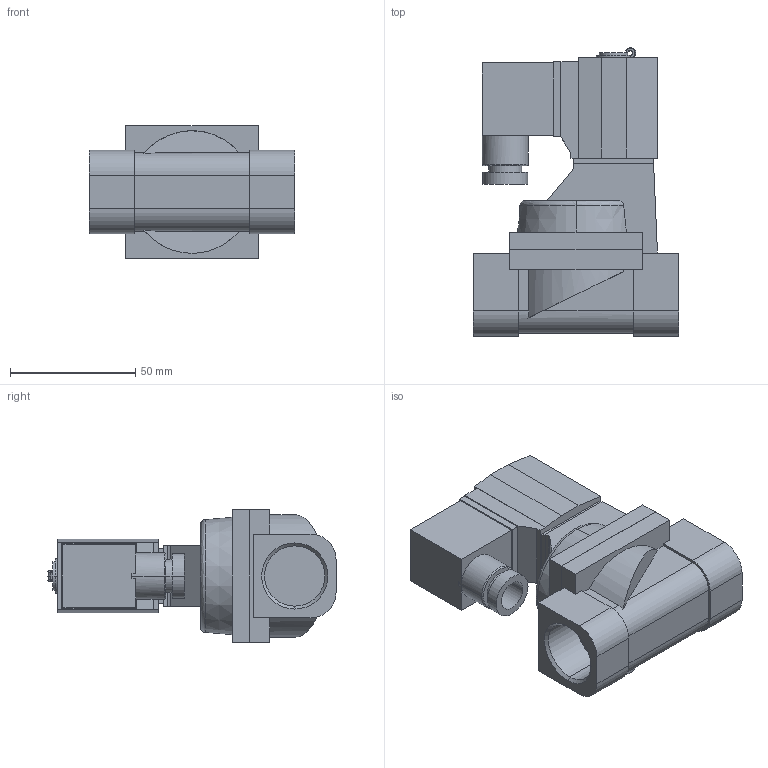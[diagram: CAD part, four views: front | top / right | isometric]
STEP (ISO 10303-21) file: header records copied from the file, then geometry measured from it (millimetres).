
FILE_DESCRIPTION (( 'STEP AP214' ), '1' );
FILE_NAME ('2W-200-20 (3D).STEP', '2020-08-18T14:39:37', ( '' ), ( '' ), 'SwSTEP 2.0', 'SolidWorks 2016', '' );
FILE_SCHEMA (( 'AUTOMOTIVE_DESIGN' ));
Length unit declared in the file: millimetre
Products named in the file (3): 2W-200-20 - Valve Body-Down; 2W-200-20 (3D); 2W-200-20 - Valve Terminal
Assembly tree (2 placements, depth 2):
  2W-200-20 (3D)
    2W-200-20 - Valve Body-Down
    2W-200-20 - Valve Terminal
Bounding box: 82 x 115.1 x 53 mm (x, y, z)
Volume: 210333.2 mm3; surface area: 35873.4 mm2
Topology: 2 solids, 2 shells, 330 faces, 870 edges, 574 vertices
Faces by surface type: plane 214, bspline 79, cylinder 28, cone 9
Entity records: 15883 total; most frequent: CARTESIAN_POINT 5958, ORIENTED_EDGE 1740, DIRECTION 1303, EDGE_CURVE 870, LINE 629, VECTOR 629, VERTEX_POINT 574, EDGE_LOOP 360
